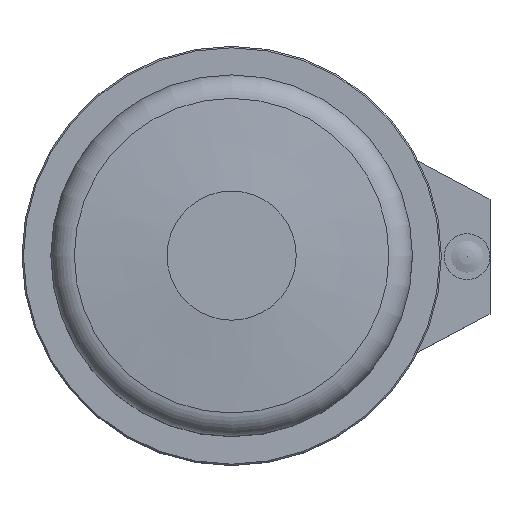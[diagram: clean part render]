
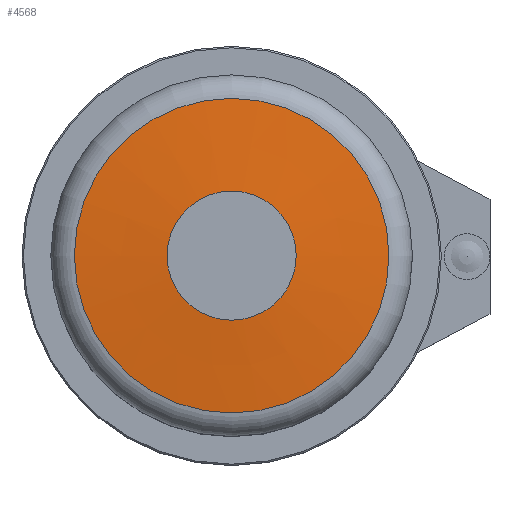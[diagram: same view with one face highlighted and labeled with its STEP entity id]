
A CAD part, top view. The second image highlights one B-rep face of the part: STEP entity #4568.
In plain terms, the highlighted conical face has half-angle 85 degrees and reference radius 27.401 mm.
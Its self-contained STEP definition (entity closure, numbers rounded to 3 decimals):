
#3917=CONICAL_SURFACE('',#10681,27.401,85.);
#4126=FACE_BOUND('',#5580,.T.);
#4127=FACE_BOUND('',#5581,.T.);
#4568=ADVANCED_FACE('',(#4126,#4127),#3917,.T.);
#5580=EDGE_LOOP('',(#7748));
#5581=EDGE_LOOP('',(#7749));
#5894=CIRCLE('',#10678,11.25);
#5895=CIRCLE('',#10680,27.401);
#7748=ORIENTED_EDGE('',*,*,#9380,.T.);
#7749=ORIENTED_EDGE('',*,*,#9381,.F.);
#8437=VERTEX_POINT('',#17294);
#8438=VERTEX_POINT('',#17297);
#9380=EDGE_CURVE('',#8437,#8437,#5894,.T.);
#9381=EDGE_CURVE('',#8438,#8438,#5895,.T.);
#10678=AXIS2_PLACEMENT_3D('',#17293,#12349,#12350);
#10680=AXIS2_PLACEMENT_3D('',#17296,#12353,#12354);
#10681=AXIS2_PLACEMENT_3D('',#17298,#12355,#12356);
#12349=DIRECTION('',(0.,0.,-1.));
#12350=DIRECTION('',(-1.,0.,0.));
#12353=DIRECTION('',(0.,0.,-1.));
#12354=DIRECTION('',(-1.,0.,0.));
#12355=DIRECTION('',(0.,0.,-1.));
#12356=DIRECTION('',(-1.,0.,0.));
#17293=CARTESIAN_POINT('',(0.,0.,34.));
#17294=CARTESIAN_POINT('',(-11.25,0.,34.));
#17296=CARTESIAN_POINT('',(0.,0.,32.587));
#17297=CARTESIAN_POINT('',(-27.401,0.,32.587));
#17298=CARTESIAN_POINT('',(0.,0.,32.587));
